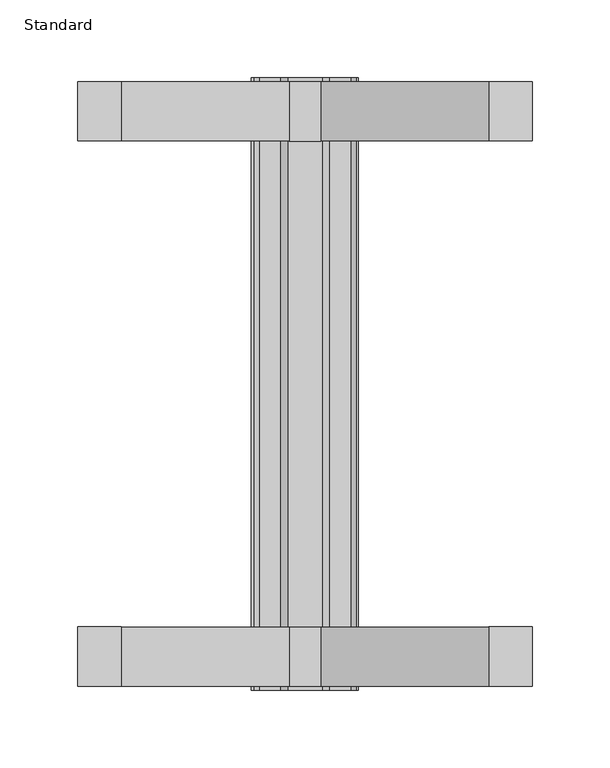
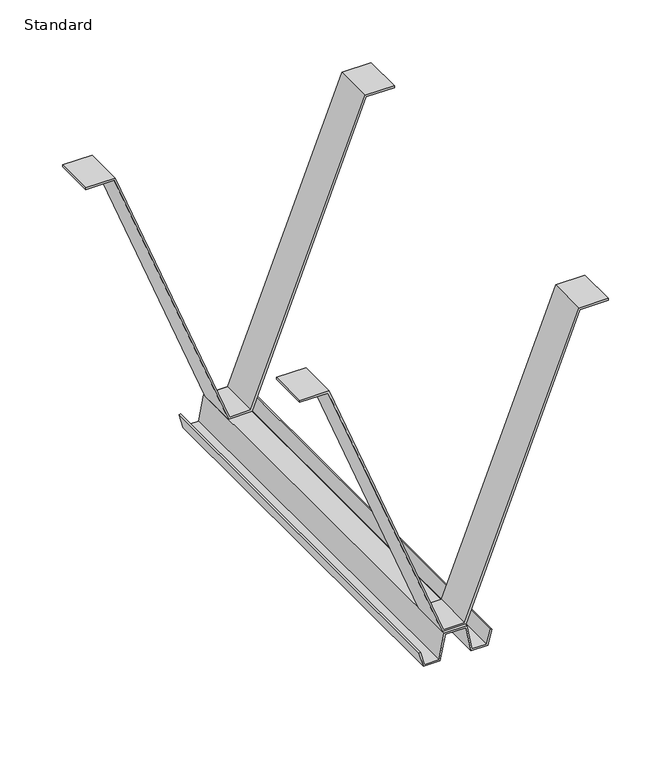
"""IFC4 building model written with IfcOpenShell, lengths in millimetres: electric appliance geometry, Bracket-Floor-Cablofil : Standard."""

from ifc_helpers import new_model, si_unit, frame, origin, place, context, project, spatial, polyline, outline, extrude, source, transform, mapped, element, save


def standard_79ea3f24(model_context):
    return source(origin(), model_context, "Body", "SweptSolid", [
        extrude(outline(polyline([(302.9, -146.05), (302.9, -119.2559763), (26.3, -11.1233462), (26.3, 11.1233462), (302.9, 119.2559763), (302.9, 146.05), (304.8, 146.05), (304.8, 118.2267946), (28.2, 10.0941645), (28.2, -10.0941645), (304.8, -118.2267946), (304.8, -146.05), (302.9, -146.05)])), frame((0.0, 156.21, 0.0), z_axis=(0.0, 1.0, 0.0), x_axis=(0.0, 0.0, 1.0)), (0.0, 0.0, 1.0), 38.1),
        extrude(outline(polyline([(14.5117714, -34.3894079), (0.0, -30.5009905), (0.0, -14.5100327), (24.8, -9.7600327), (24.8, 9.7600327), (0.0, 14.5100327), (0.0, 30.5009905), (14.5117714, 34.3894079), (14.9, 32.9405192), (1.5, 29.35), (1.5, 15.75), (26.3, 11.0), (26.3, -11.0), (1.5, -15.75), (1.5, -29.35), (14.9, -32.9405192), (14.5117714, -34.3894079)])), frame((0.0, -196.85, 0.0), z_axis=(0.0, 1.0, 0.0), x_axis=(0.0, 0.0, 1.0)), (0.0, 0.0, 1.0), 393.7),
        extrude(outline(polyline([(302.9, -146.05), (302.9, -119.2559763), (26.3, -11.1233462), (26.3, 11.1233462), (302.9, 119.2559763), (302.9, 146.05), (304.8, 146.05), (304.8, 118.2267946), (28.2, 10.0941645), (28.2, -10.0941645), (304.8, -118.2267946), (304.8, -146.05), (302.9, -146.05)])), frame((0.0, -194.31, 0.0), z_axis=(0.0, 1.0, 0.0), x_axis=(0.0, 0.0, 1.0)), (0.0, 0.0, 1.0), 38.1),
    ])


if __name__ == "__main__":
    model = new_model("IFC4")
    model_context = context("Model", 3, world=origin())
    ifc_project = project(units=[si_unit("LENGTHUNIT", "METRE", prefix="MILLI")], contexts=[model_context])
    site = spatial("IfcSite", under=ifc_project)
    building = spatial("IfcBuilding", under=site)
    placement = place(None, origin())
    standard_shape = standard_79ea3f24(model_context)
    element("IfcElectricAppliance", 1, ObjectType="Bracket-Floor-Cablofil : Standard", at=placement, inside=building, context=model_context, shape_type="MappedRepresentation", body=[
        mapped(standard_shape, transform((0.0, 0.0, 0.0), x_axis=(1.0, 0.0, 0.0), y_axis=(0.0, 1.0, 0.0), z_axis=(0.0, 0.0, 1.0))),
    ])
    save(model, "model.ifc")
